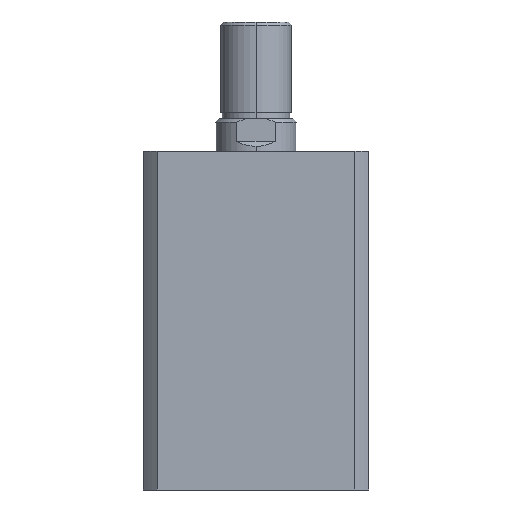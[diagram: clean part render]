
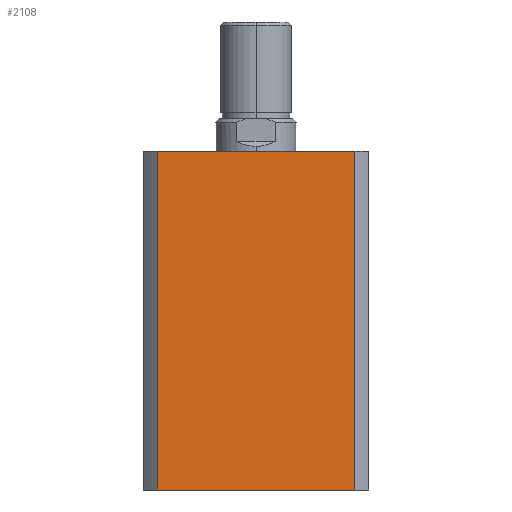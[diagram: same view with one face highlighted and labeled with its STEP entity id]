
A CAD part, left-side view. The second image highlights one B-rep face of the part: STEP entity #2108.
In plain terms, the highlighted planar face has unit normal (-1, 0, 0).
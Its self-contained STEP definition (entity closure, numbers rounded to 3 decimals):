
#492 = CARTESIAN_POINT ( 'NONE',  ( -35., 0., 105. ) ) ;
#493 = PLANE ( 'NONE',  #1965 ) ;
#496 = DIRECTION ( 'NONE',  ( 1., 0., 0. ) ) ;
#497 = DIRECTION ( 'NONE',  ( 0., 1., 0. ) ) ;
#816 = CARTESIAN_POINT ( 'NONE',  ( -35., 30.615, 0. ) ) ;
#823 = CARTESIAN_POINT ( 'NONE',  ( -35., -30.615, 0. ) ) ;
#1360 = VERTEX_POINT ( 'NONE', #4549 ) ;
#1477 = VERTEX_POINT ( 'NONE', #1930 ) ;
#1705 = VECTOR ( 'NONE', #3530, 1000. ) ;
#1707 = LINE ( 'NONE', #3531, #1705 ) ;
#1708 = VECTOR ( 'NONE', #3552, 1000. ) ;
#1710 = VECTOR ( 'NONE', #3550, 1000. ) ;
#1711 = LINE ( 'NONE', #3551, #1708 ) ;
#1713 = LINE ( 'NONE', #3549, #1710 ) ;
#1930 = CARTESIAN_POINT ( 'NONE',  ( -35., 30.615, 105. ) ) ;
#1965 = AXIS2_PLACEMENT_3D ( 'NONE', #492, #496, #497 ) ;
#2108 = ADVANCED_FACE ( 'NONE', ( #2894 ), #493, .F. ) ;
#2380 = VERTEX_POINT ( 'NONE', #816 ) ;
#2387 = VERTEX_POINT ( 'NONE', #823 ) ;
#2793 = EDGE_CURVE ( 'NONE', #2380, #2387, #3665, .T. ) ;
#2826 = EDGE_CURVE ( 'NONE', #1477, #1360, #1713, .T. ) ;
#2827 = EDGE_CURVE ( 'NONE', #1360, #2387, #1711, .T. ) ;
#2829 = EDGE_CURVE ( 'NONE', #1477, #2380, #1707, .T. ) ;
#2894 = FACE_OUTER_BOUND ( 'NONE', #5086, .T. ) ;
#3434 = DIRECTION ( 'NONE',  ( 0., -1., 0. ) ) ;
#3435 = CARTESIAN_POINT ( 'NONE',  ( -35., 0., 0. ) ) ;
#3530 = DIRECTION ( 'NONE',  ( 0., 0., -1. ) ) ;
#3531 = CARTESIAN_POINT ( 'NONE',  ( -35., 30.615, 105. ) ) ;
#3549 = CARTESIAN_POINT ( 'NONE',  ( -35., 0., 105. ) ) ;
#3550 = DIRECTION ( 'NONE',  ( 0., -1., 0. ) ) ;
#3551 = CARTESIAN_POINT ( 'NONE',  ( -35., -30.615, 105. ) ) ;
#3552 = DIRECTION ( 'NONE',  ( 0., 0., -1. ) ) ;
#3661 = VECTOR ( 'NONE', #3434, 1000. ) ;
#3665 = LINE ( 'NONE', #3435, #3661 ) ;
#4348 = ORIENTED_EDGE ( 'NONE', *, *, #2793, .T. ) ;
#4349 = ORIENTED_EDGE ( 'NONE', *, *, #2827, .F. ) ;
#4350 = ORIENTED_EDGE ( 'NONE', *, *, #2826, .F. ) ;
#4351 = ORIENTED_EDGE ( 'NONE', *, *, #2829, .T. ) ;
#4549 = CARTESIAN_POINT ( 'NONE',  ( -35., -30.615, 105. ) ) ;
#5086 = EDGE_LOOP ( 'NONE', ( #4348, #4349, #4350, #4351 ) ) ;
